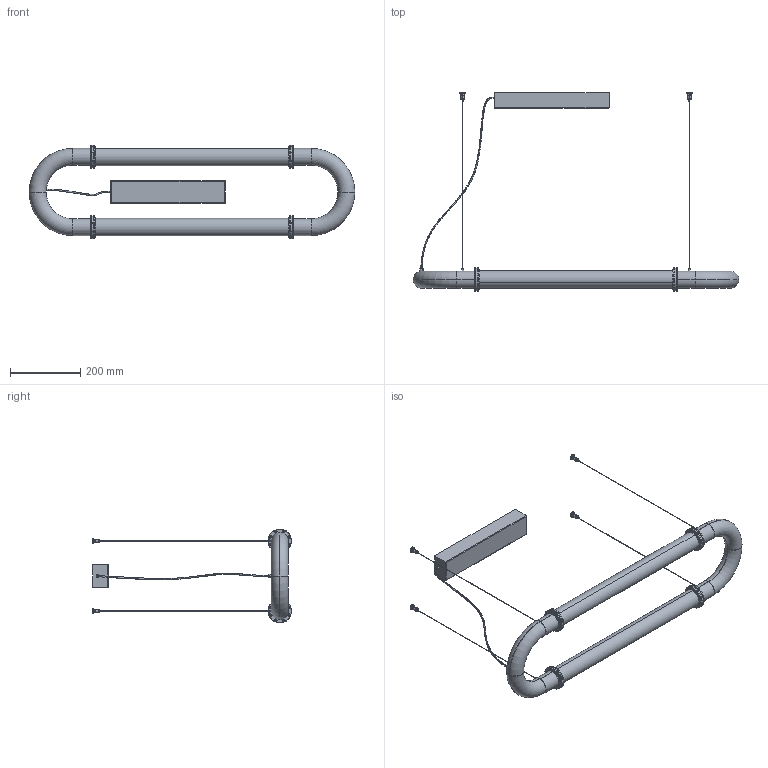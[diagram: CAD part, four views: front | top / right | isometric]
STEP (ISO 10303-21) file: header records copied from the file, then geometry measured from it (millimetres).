
FILE_DESCRIPTION (( 'STEP AP203' ), '1' );
FILE_NAME ('FBN05.LS01.AF01.R00 - Render.STEP', '2026-04-02T10:18:47', ( '' ), ( '' ), 'SwSTEP 2.0', 'SolidWorks 2025', '' );
FILE_SCHEMA (( 'CONFIG_CONTROL_DESIGN' ));
Length unit declared in the file: millimetre
Products named in the file (23): socket button head screw_1_iso_ISO 7380 - M3 x 12 - 12C; FBN05.LS03.C006.R1A; FBN05.LS03.C012.R10; socket countersunk head screw_1_iso_ISO 10642 - M3 x 6 - 6C; FBN05.LS01.C095.R00; FBN05.LS03.C016.R10; FBN05.LS03.C098.R00; FBN05.LS03.C014.R1A; F44 M01; FBN05.LS01.C003.R00; Morsetto Automatico M8x1 Fune Acciaio - Beretta 1010-0802; FBN05.LS04.C019.R10; FBN05.LS04.C024.R1A; FBN05.LS04.C008.R1A; FBN05.LS01.AF01.R00 - Render; FBN05.LS03.C010.R1A; Grani Steab_GRANO M4X0.7 L.4 NERO CAVA ESAGONALE; FBN05.LS03.C015.R1A; FBN05.LS01.C001.R00; FBN05.LS03.C007.R1A; FBN05.LS01.C002.R00; Rosone Cilindrico Ø16 Ø10x18 - Beretta 2031.0802; FBN05.LS03.C008.R1A
Assembly tree (121 placements, depth 2):
  FBN05.LS01.AF01.R00 - Render
    socket button head screw_1_iso_ISO 7380 - M3 x 12 - 12C  x2
    Grani Steab_GRANO M4X0.7 L.4 NERO CAVA ESAGONALE
    Rosone Cilindrico Ø16 Ø10x18 - Beretta 2031.0802  x4
    Morsetto Automatico M8x1 Fune Acciaio - Beretta 1010-0802  x4
    socket countersunk head screw_1_iso_ISO 10642 - M3 x 6 - 6C  x8
    FBN05.LS03.C015.R1A  x2
    FBN05.LS04.C024.R1A  x4
    FBN05.LS03.C010.R1A  x4
    FBN05.LS04.C008.R1A  x4
    FBN05.LS03.C014.R1A  x32
    FBN05.LS03.C016.R10  x32
    FBN05.LS03.C007.R1A  x4
    FBN05.LS01.C001.R00
    FBN05.LS01.C095.R00
    FBN05.LS04.C019.R10  x2
    FBN05.LS03.C006.R1A  x4
    FBN05.LS03.C008.R1A
    FBN05.LS01.C003.R00
    FBN05.LS03.C098.R00  x4
    FBN05.LS03.C012.R10  x4
    F44 M01
    FBN05.LS01.C002.R00
Bounding box: 926 x 565.22 x 266.44 mm (x, y, z)
Volume: 2386561.7 mm3; surface area: 891461.6 mm2
Topology: 121 solids, 121 shells, 2705 faces, 6274 edges, 3902 vertices
Faces by surface type: cylinder 1183, plane 790, cone 418, sphere 268, torus 44, bspline 2
Entity records: 24106 total; most frequent: CARTESIAN_POINT 5024, DIRECTION 3255, ORIENTED_EDGE 2640, AXIS2_PLACEMENT_3D 1327, EDGE_CURVE 1320, VERTEX_POINT 832, EDGE_LOOP 716, CIRCLE 649
